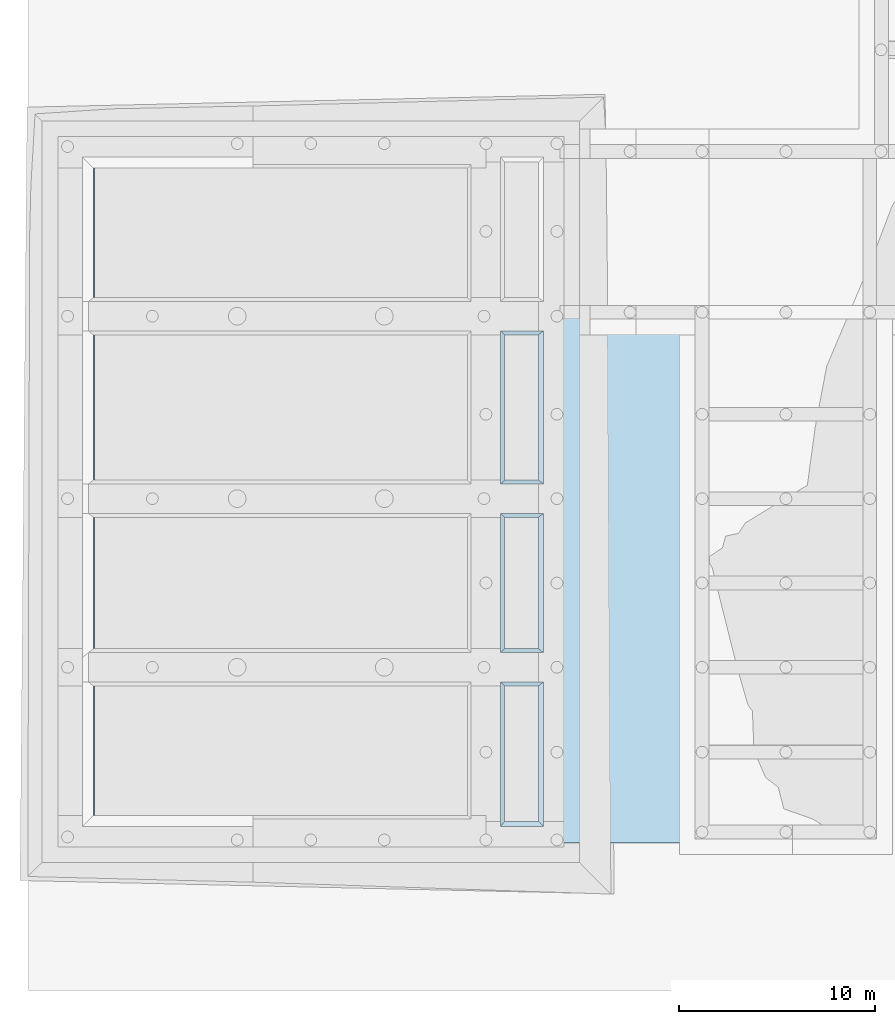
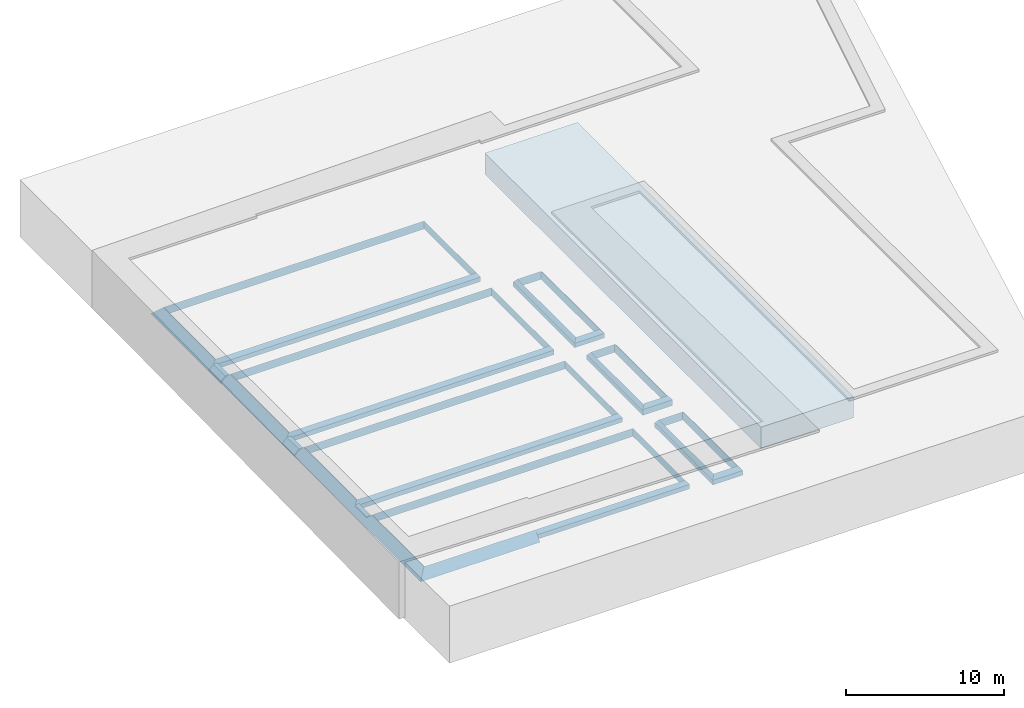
# One storey, part 5 of 7: 5 slabs.
"""IFC2X3 building model written with IfcOpenShell, lengths in millimetres."""

from ifc_helpers import new_model, entity, si_unit, converted_unit, derived_unit, money_unit, direction, frame, origin_with_axes, place, context, subcontext, project, spatial, polyline, outline, extrude, boolean, faceted_brep, material, layer, layer_set, layer_usage, type_object, element, save


model = new_model("IFC2X3")

# Units and contexts
model_context = context("Model", 3, precision=0.01, world=origin_with_axes(), true_north=direction((0.0, 1.0)))
body_context = subcontext(model_context, "Body", "Model", "MODEL_VIEW")
ifc_project = project(units=[si_unit("LENGTHUNIT", "METRE", prefix="MILLI"), si_unit("AREAUNIT", "SQUARE_METRE"), si_unit("VOLUMEUNIT", "CUBIC_METRE"), converted_unit("PLANEANGLEUNIT", "DEGREE", entity("IfcPlaneAngleMeasure", 0.0174532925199), si_unit("PLANEANGLEUNIT", "RADIAN"), dimensions=[0, 0, 0, 0, 0, 0, 0]), money_unit("USD"), converted_unit("TIMEUNIT", "Year", entity("IfcTimeMeasure", 31556926.0), si_unit("TIMEUNIT", "SECOND"), dimensions=[0, 0, 1, 0, 0, 0, 0]), si_unit("MASSUNIT", "GRAM", prefix="KILO"), si_unit("THERMODYNAMICTEMPERATUREUNIT", "DEGREE_CELSIUS"), si_unit("LUMINOUSINTENSITYUNIT", "LUMEN"), si_unit("ENERGYUNIT", "JOULE", prefix="MEGA"), derived_unit("THERMALCONDUCTANCEUNIT", [(si_unit("POWERUNIT", "WATT"), 1), (si_unit("LENGTHUNIT", "METRE"), -1), (si_unit("THERMODYNAMICTEMPERATUREUNIT", "KELVIN"), -1)]), derived_unit("SPECIFICHEATCAPACITYUNIT", [(si_unit("ENERGYUNIT", "JOULE"), 1), (si_unit("MASSUNIT", "GRAM", prefix="KILO"), -1), (si_unit("THERMODYNAMICTEMPERATUREUNIT", "KELVIN"), -1)]), derived_unit("MASSDENSITYUNIT", [(si_unit("MASSUNIT", "GRAM", prefix="KILO"), 1), (si_unit("VOLUMEUNIT", "CUBIC_METRE"), -1)])], contexts=[model_context])

# Site, building, storey
site_placement = place(None, frame((9669.71692459, 4224.13032188, 0.0), z_axis=(0.0, 0.0, 1.0), x_axis=(1.0, 0.0, 0.0)))
site = spatial("IfcSite", under=ifc_project, at=site_placement, Name="Exteriér", CompositionType="ELEMENT")
building_placement = place(site_placement, origin_with_axes())
building = spatial("IfcBuilding", under=site, at=building_placement, Name="Budova", CompositionType="ELEMENT")
storey_placement = place(building_placement, frame((0.0, 0.0, -5000.0), z_axis=(0.0, 0.0, 1.0), x_axis=(1.0, 0.0, 0.0)))
storey = spatial("IfcBuildingStorey", under=building, at=storey_placement, Name="Základy", CompositionType="ELEMENT", Elevation=-5000.0)

# Slabs
ifc_material = material(Name="Hutněný násyp")
ifc_layer_1 = layer(ifc_material, 1631.37642892, ventilated="UNKNOWN")
ifc_layer_set_1 = layer_set([ifc_layer_1], Name="Hutněný násyp 1631.38")
ifc_layer_usage_1 = layer_usage(ifc_layer_set_1, "AXIS3", "NEGATIVE", 1631.37642892)
slab_type_1 = type_object("IfcSlabType", Name="Hutněný násyp 1631", PredefinedType="FLOOR")
slab_1_placement = place(storey_placement, frame((12954.737132, -4460.94750073, 3074.62357108), z_axis=(0.0, 0.0, 1.0), x_axis=(1.0, 0.0, 0.0)))
element("IfcSlab", 1, at=slab_1_placement, inside=storey, type_object=slab_type_1, material=ifc_layer_usage_1, Name="Zásyp", PredefinedType="FLOOR", context=body_context, shape_type="CSG", body=[
    boolean("DIFFERENCE", extrude(outline(polyline([(0.0, 0.0), (6759.99999993, 0.0), (6759.99999993, 34900.0), (0.0, 34900.0), (0.0, 0.0)])), origin_with_axes(), (0.0, 0.0, 1.0), 1631.37642892), faceted_brep([(0.0, 0.0, 346.925281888), (209.085961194, 0.0, 356.690475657), (0.0, 932.994283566, 341.241322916), (0.0, 0.0, 0.0), (6759.99999993, 0.0, 0.0), (6759.99999993, 0.0, 980.352893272), (6402.27434545, 0.0, 954.390441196), (3452.62927391, 0.0, 879.982093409), (3063.47299721, 0.0, 870.434176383), (2143.414495, 0.0, 693.058159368), (466.287841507, 0.0, 373.280828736), (0.0, 7367.91030647, 327.706314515), (2446.6917581, 7438.94710883, 485.376428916), (0.0, 12944.2661792, 297.572104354), (0.0, 14365.8616987, 349.712927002), (0.0, 14632.2479457, 282.536742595), (0.0, 15421.8575599, 337.252027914), (0.0, 16170.4105545, 287.88958868), (0.0, 24125.5160663, 314.861069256), (2.17177387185e-08, 26700.0033854, 329.821147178), (2.17177387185e-08, 26700.0033854, 1415.37642892), (0.0, 26700.0156261, 1415.37642892), (0.0, 26700.0156261, 0.0), (0.0, 34900.0, 0.0), (6759.99999993, 34900.0, 0.0), (6759.99999993, 34900.0, 567.911722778), (6759.99999993, 33804.8699131, 593.975966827), (6759.99999993, 32890.9729468, 644.191369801), (6759.99999993, 31878.737024, 668.462725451), (6759.99999993, 31229.69455, 665.083907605), (6759.99999993, 27400.0153777, 758.608749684), (6759.99999993, 27400.0153777, 1415.37642892), (6759.99999993, 34900.0, 1415.37642892), (6759.99999993, 34900.0, 1631.37642892), (6759.99999993, 26700.0063247, 1631.37642892), (6759.99999991, 26700.0063247, 1415.37642892), (6759.99999992, 26700.0103214, 790.518934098), (6759.99999991, 22659.5475681, 1013.97162421), (6759.99999991, 21608.7790592, 840.573877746), (6759.99999991, 21374.6366585, 816.610442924), (6759.99999991, 20582.5949187, 759.054375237), (6759.99999991, 15262.743969, 1073.65189281), (6759.99999991, 14691.0314264, 1231.01760133), (6759.99999991, 14354.7926048, 1312.10997947), (6759.99999991, 13955.466065, 1358.83006421), (6759.99999991, 13814.6867935, 1354.17674483), (6759.99999991, 13645.8554709, 1353.98033421), (6759.99999991, 13544.9559942, 1351.03464929), (6759.99999991, 12697.4236825, 1338.94425505), (6759.99999991, 6806.77332527, 1231.58857045), (6759.99999991, 5639.11208784, 1177.64869394), (6759.99999991, 1686.39786336, 1031.51236374), (6759.99999991, 1284.29085877, 1014.53223968), (6759.99999991, 1157.58813472, 1015.05360665), (6596.08779268, 1231.61172649, 1005.37642892), (3209.68974712, 307.86485797, 885.376428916), (6358.75358239, 13351.4992042, 1325.37642892), (4260.74778253, 15621.6911925, 515.376428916), (4500.91113818, 21693.4966541, 945.376428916), (2838.90569098, 23251.2957082, 465.376428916), (2013.20433282, 26699.9979039, 440.161258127), (3666.77308027, 26700.0008373, 496.365941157), (4688.00598878, 26700.002649, 663.779543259), (0.0, 26700.0156261, 1631.37642892), (0.0, 34900.0, 1631.37642892), (0.0, 34900.0, 1415.37642892), (0.0, 27400.0033854, 1415.37642892), (-0.000948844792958, 27400.0033854, 333.888722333), (0.0, 28800.5026465, 342.026929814), (0.0, 29680.8288135, 343.519893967), (0.0, 31596.064396, 319.225687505), (0.0, 32541.3036048, 226.81331719), (0.0, 34900.0, 127.295845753), (1138.19662123, 34900.0, 207.935847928), (1423.03257248, 34900.0, 216.712299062), (2428.09557587, 34900.0, 326.993334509), (3724.11728239, 34900.0, 407.480588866), (6048.6348638, 34900.0, 504.202828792), (2495.74705923, 30555.1058203, 435.376428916), (4174.62756816, 28815.6058242, 515.376428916), (6411.87019067, 27400.0147601, 730.511654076), (4518.13982883, 27400.0114007, 614.676062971), (3834.81148665, 27400.0101884, 502.656113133), (1845.6055819, 27400.0066596, 435.043147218), (5731.33539264, 22400.5017137, 965.376428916), (4664.1837424, 6637.74220416, 1095.37642892), (1201.59503171, 30089.8418845, 415.376428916)], [[[0, 1, 2]], [[0, 3, 4, 5, 6, 7, 8, 9, 10, 1]], [[11, 2, 1, 10, 12]], [[11, 13, 14, 15, 16, 17, 18, 19, 20, 21, 22, 3, 0, 2]], [[22, 23, 24, 4, 3]], [[5, 4, 24, 25, 26, 27, 28, 29, 30, 31, 32, 33, 34, 35, 36, 37, 38, 39, 40, 41, 42, 43, 44, 45, 46, 47, 48, 49, 50, 51, 52, 53]], [[54, 6, 5, 53]], [[55, 7, 6, 54]], [[55, 8, 7]], [[9, 8, 55]], [[10, 9, 55, 12]], [[13, 11, 12]], [[14, 13, 12, 56]], [[15, 14, 56, 57]], [[16, 15, 57, 58]], [[17, 16, 58, 59]], [[18, 17, 59]], [[19, 18, 59, 60]], [[20, 19, 60, 61, 62, 36, 35]], [[21, 20, 35]], [[23, 22, 21, 63, 64, 65, 66, 67, 68, 69, 70, 71, 72]], [[72, 73, 74, 75, 76, 77, 25, 24, 23]], [[77, 26, 25]], [[77, 76, 27, 26]], [[76, 75, 78, 28, 27]], [[78, 79, 29, 28]], [[79, 80, 30, 29]], [[67, 66, 31, 30, 80, 81, 82, 83]], [[66, 65, 32, 31]], [[65, 64, 33, 32]], [[64, 63, 34, 33]], [[63, 21, 35, 34]], [[62, 84, 37, 36]], [[84, 38, 37]], [[84, 58, 39, 38]], [[58, 57, 40, 39]], [[40, 57, 41]], [[57, 42, 41]], [[57, 43, 42]], [[57, 56, 44, 43]], [[56, 45, 44]], [[46, 45, 56]], [[47, 46, 56]], [[48, 47, 56]], [[56, 85, 49, 48]], [[50, 49, 85]], [[85, 54, 51, 50]], [[52, 51, 54]], [[53, 52, 54]], [[55, 54, 85]], [[12, 55, 85]], [[12, 85, 56]], [[84, 59, 58]], [[61, 60, 59]], [[61, 59, 84, 62]], [[68, 67, 83, 86]], [[69, 68, 86]], [[70, 69, 86]], [[86, 71, 70]], [[73, 72, 71, 86]], [[73, 86, 78, 74]], [[75, 74, 78]], [[86, 79, 78]], [[80, 79, 81]], [[82, 81, 79]], [[86, 83, 82, 79]]])),
])
ifc_layer_2 = layer(ifc_material, 728.0, ventilated="UNKNOWN")
ifc_layer_set_2 = layer_set([ifc_layer_2], Name="Hutněný násyp 728")
ifc_layer_usage_2 = layer_usage(ifc_layer_set_2, "AXIS3", "NEGATIVE", 728.0)
slab_type_2 = type_object("IfcSlabType", Name="Hutněný násyp 728", PredefinedType="FLOOR")
slab_2_placement = place(storey_placement, frame((9934.73715279, 21389.0522278, 800.0), z_axis=(0.0, 0.0, 1.0), x_axis=(1.0, 0.0, 0.0)))
element("IfcSlab", 2, at=slab_2_placement, inside=storey, type_object=slab_type_2, material=ifc_layer_usage_2, Name="Zásyp", PredefinedType="FLOOR", context=body_context, shape_type="CSG", body=[
    boolean("DIFFERENCE", extrude(outline(polyline([(0.0, -7549.99952938), (2180.0001834, -7549.99952938), (2180.0001834, 249.99997518), (0.0, 249.99997518), (0.0, -7549.99952938)]), holes=[polyline([(199.999933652, -7349.9994795), (199.999933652, 49.9999252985), (1930.00032445, 49.9999252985), (1930.00032445, -7349.9994795), (199.999933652, -7349.9994795)])]), origin_with_axes(), (0.0, 0.0, 1.0), 728.0), faceted_brep([(199.999972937, 49.9999749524, 628.022147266), (1930.00026922, 49.999975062, 628.000019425), (1930.00032445, 49.9999252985, 728.0), (199.999933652, 49.9999252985, 728.0), (199.999933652, 249.999975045, 350.000000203), (2180.00026973, 249.999975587, 349.999999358), (-1.79362427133e-05, 249.99997499, 350.000000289), (1930.00026974, -7349.99952904, 627.999999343), (1930.00032445, -7349.9994795, 728.0), (2180.0001834, 249.99997518, 728.0), (199.999933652, 249.99997518, 728.0), (0.0, 249.99997518, 728.0), (0.0, 0.0, 728.0), (0.0, -6910.00027635, 728.0), (0.0, -7549.99952938, 728.0), (1930.00032445, -7549.99952938, 728.0), (2180.0001834, -7549.99952938, 728.0), (2180.0001834, -6910.00027635, 728.0), (2180.0001834, 0.0, 728.0), (199.999933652, -7349.9994795, 728.0), (199.999982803, -7349.99952915, 628.022147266), (2180.00026918, 0.0, 349.999999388), (2180.00025394, -6910.00027635, 350.000000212), (2180.00025253, -7549.99952919, 350.000000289), (-1.7918514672e-05, 0.0, 350.000000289), (-1.73831562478e-05, -7549.99952919, 350.000000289), (-1.74285386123e-05, -6910.00027635, 350.000000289), (1930.00032445, -7549.99952919, 350.000000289)], [[[0, 1, 2, 3]], [[4, 5, 1, 0, 6]], [[1, 7, 8, 2]], [[9, 10, 11, 12, 13, 14, 15, 16, 17, 18], [3, 2, 8, 19]], [[20, 0, 3, 19]], [[5, 4, 10, 9]], [[5, 21, 22, 23, 7, 1]], [[24, 6, 0, 20, 25, 26]], [[4, 6, 11, 10]], [[7, 20, 19, 8]], [[6, 24, 12, 11]], [[24, 26, 13, 12]], [[26, 25, 14, 13]], [[25, 27, 15, 14]], [[27, 23, 16, 15]], [[23, 22, 17, 16]], [[22, 21, 18, 17]], [[21, 5, 9, 18]], [[23, 27, 25, 20, 7]]])),
])
ifc_layer_usage_3 = layer_usage(ifc_layer_set_2, "AXIS3", "NEGATIVE", 728.0)
slab_3_placement = place(storey_placement, frame((-11395.263015, 3739.05230132, 800.0), z_axis=(0.0, 0.0, 1.0), x_axis=(1.0, 0.0, 0.0)))
element("IfcSlab", 3, at=slab_3_placement, inside=storey, type_object=slab_type_2, material=ifc_layer_usage_3, Name="Zásyp", PredefinedType="FLOOR", context=body_context, shape_type="CSG", body=[
    boolean("DIFFERENCE", extrude(outline(polyline([(0.0, -7359.99966325), (8714.7482725, -7359.99966325), (8714.7482725, -6994.99968979), (19830.000137, -6994.99968979), (19830.000137, 0.0), (623.0223152, 0.0), (623.0223152, 1500.00012934), (19830.000137, 1500.00012934), (19830.000137, 8600.00039705), (623.0223152, 8600.00039705), (623.0223152, 10100.000397), (19830.000137, 10100.000397), (19830.000137, 17899.9999016), (623.0223152, 17899.9999016), (623.0223152, 19399.9999016), (19830.000137, 19399.9999016), (19830.000137, 26395.0001979), (8714.74812699, 26395.0001979), (8714.74812699, 26760.0001979), (0.0, 26760.0001979), (0.0, -7359.99966325)]), holes=[polyline([(622.113006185, -6794.99973267), (622.113006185, -199.999957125), (19630.0001798, -199.999957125), (19630.0001798, -6794.99973267), (622.113006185, -6794.99973267)]), polyline([(623.0223152, 17699.9999016), (19630.000137, 17699.9999016), (19630.000137, 10300.000397), (623.0223152, 10300.000397), (623.0223152, 17699.9999016)]), polyline([(623.0223152, 8400.00039705), (19630.000137, 8400.00039705), (19630.000137, 1700.00008101), (623.0223152, 1700.00008101), (623.0223152, 8400.00039705)]), polyline([(623.0223152, 26195.0001979), (19630.000137, 26195.0001979), (19630.000137, 19599.9999016), (623.0223152, 19599.9999016), (623.0223152, 26195.0001979)])]), origin_with_axes(), (0.0, 0.0, 1.0), 728.0), faceted_brep([(723.0223152, -199.999891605, 628.000000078), (723.0223152, -199.99987089, 628.339806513), (19630.0001367, -199.999870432, 628.339806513), (19630.0001798, -199.999957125, 728.0), (622.113006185, -199.999957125, 728.0), (622.113006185, -199.999891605, 628.000000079), (622.113006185, -199.999957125, 450.0), (723.0223152, -199.999957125, 450.0), (723.0223152, -71.0425131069, 450.0), (19630.0001798, 0.000129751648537, 351.752553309), (19830.0001368, 0.000129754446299, 351.752553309), (622.113006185, -71.0425131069, 450.0), (622.113006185, -199.99987089, 628.339806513), (565.000000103, -199.99987089, 628.339806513), (314.888538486, 0.000129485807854, 351.752553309), (623.0223152, 0.000129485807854, 351.752553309), (19630.000137, -6794.99966325, 628.0), (19630.0001367, -6794.99966347, 628.339806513), (19630.0001798, -6794.99973267, 728.0), (19630.000137, -199.999870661, 628.0), (623.0223152, 26760.0001979, 728.0), (0.0, 26760.0001979, 728.0), (0.0, 26195.0001979, 728.0), (0.0, 0.0, 728.0), (0.0, -7359.99966325, 728.0), (564.999930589, -7359.99966325, 728.0), (8714.7482725, -7359.99966325, 728.0), (8714.7482725, -6994.99968979, 728.0), (19630.0001798, -6994.99968979, 728.0), (19830.000137, -6994.99968979, 728.0), (19830.000137, -6794.99973267, 728.0), (19830.000137, -199.999957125, 728.0), (19830.000137, 0.0, 728.0), (19630.0001798, 0.0, 728.0), (623.0223152, 0.0, 728.0), (623.0223152, 1500.00012934, 728.0), (19630.000137, 1500.00012934, 728.0), (19830.000137, 1500.00012934, 728.0), (19830.000137, 1700.00008101, 728.0), (19830.000137, 8600.00039705, 728.0), (19630.000137, 8600.00039705, 728.0), (623.0223152, 8600.00039705, 728.0), (623.0223152, 10100.000397, 728.0), (19830.000137, 10100.000397, 728.0), (19830.000137, 10300.000397, 728.0), (19830.000137, 17699.9999016, 728.0), (19830.000137, 17899.9999016, 728.0), (19630.000137, 17899.9999016, 728.0), (623.0223152, 17899.9999016, 728.0), (623.0223152, 19399.9999016, 728.0), (19830.000137, 19399.9999016, 728.0), (19830.000137, 19599.9999016, 728.0), (19830.000137, 26195.0001979, 728.0), (19830.000137, 26395.0001979, 728.0), (19630.000137, 26395.0001979, 728.0), (8714.74812699, 26395.0001979, 728.0), (8714.74812699, 26760.0001979, 728.0), (8714.7482725, -6794.99973267, 728.0), (622.113006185, -6794.99973267, 728.0), (19630.000137, 17699.9999016, 728.0), (19630.000137, 10300.000397, 728.0), (623.0223152, 10300.000397, 728.0), (623.0223152, 17699.9999016, 728.0), (19630.000137, 8400.00039705, 728.0), (19630.000137, 1700.00008101, 728.0), (623.0223152, 1700.00008101, 728.0), (623.0223152, 8400.00039705, 728.0), (19630.000137, 26195.0001979, 728.0), (19630.000137, 19599.9999016, 728.0), (623.0223152, 19599.9999016, 728.0), (623.0223152, 26195.0001979, 728.0), (8714.74812699, 26195.0001979, 728.0), (622.113006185, -6794.99966299, 628.000000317), (19830.0001368, 0.000129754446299, 350.000000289), (565.000032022, -199.9998983, 628.000035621), (314.888487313, 0.000129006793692, 349.999946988), (623.0223152, 0.000129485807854, 450.0), (314.888538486, 0.000129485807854, 450.0), (622.113006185, 0.000129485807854, 450.0), (19830.0001368, -6994.99966366, 350.000000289), (19830.0001368, -6994.99966366, 351.752553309), (8714.74812683, -6794.99966303, 628.339806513), (19830.0001368, -199.999957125, 350.000000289), (19830.0001368, -6794.99973267, 350.000000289), (623.0223152, 26760.0001982, -3.11199066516e-07), (-3.80040887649e-07, 26760.0001982, -3.11199066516e-07), (-3.74278386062e-07, 26195.0001979, -3.11197290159e-07), (-3.03085556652e-07, 8600.00039699, -3.09084313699e-07), (-1.38234312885e-07, 0.0, -3.10222958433e-07), (-3.04968494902e-07, 19399.9999012, -3.11177750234e-07), (-3.04968494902e-07, 19399.9999012, 100.000000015), (-3.04968494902e-07, 17899.9999019, 100.000000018), (-3.04968494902e-07, 17899.9999019, -3.11175973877e-07), (-3.04968494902e-07, 10100.0003967, -3.11175973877e-07), (-3.04968494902e-07, 10100.0003967, 100.000000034), (-1.58870250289e-07, 8600.00039699, 100.000000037), (2.8492763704e-09, -7359.99966356, -3.11197290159e-07), (564.999930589, -7359.99966356, -3.11197290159e-07), (8714.74812738, -7359.99966356, -3.11197290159e-07), (8714.74812683, -6994.9996634, 405.699112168), (8714.74812683, -6994.9996634, 351.752553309), (19630.0001798, -6994.99966365, 351.752553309), (623.0223152, 1500.00012953, 450.0), (623.0223152, 1500.00012953, 350.000000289), (19630.000137, 1500.00012956, 350.000000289), (19830.0001368, 1500.00012956, 350.000000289), (19830.0001368, 1700.00008101, 350.000000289), (19830.0001368, 8600.00039746, 350.000000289), (19830.0001365, 8600.0003972, 351.752553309), (19630.000137, 8600.0003972, 351.752553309), (623.0223152, 8600.0003972, 351.752553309), (623.0223152, 8600.0003972, 450.0), (623.0223152, 10100.0003972, 450.0), (623.0223152, 10100.0003972, 350.000000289), (19830.0001368, 10100.0003967, 350.000000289), (19830.0001368, 10300.000397, 350.000000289), (19830.0001368, 17699.9999016, 350.000000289), (19830.0001368, 17899.999902, 350.000000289), (19830.0001365, 17899.9999018, 351.752553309), (19630.000137, 17899.9999018, 351.752553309), (623.0223152, 17899.9999018, 351.752553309), (623.0223152, 17899.9999018, 450.0), (623.0223152, 19399.9999018, 450.0), (623.0223152, 19399.9999018, 350.000000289), (19830.0001368, 19399.9999022, 350.000000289), (19830.0001368, 19599.9999016, 350.000000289), (19830.0001368, 26195.0001979, 350.000000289), (19830.0001368, 26395.0001984, 350.000000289), (19830.0001371, 26395.0001981, 351.752553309), (19630.000137, 26395.0001981, 351.752553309), (8714.7481266, 26395.0001981, 351.752553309), (8714.748127, 26395.000198, 405.699115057), (8714.748127, 26760.0001982, -3.11201731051e-07), (8714.74812738, -6794.99966299, 628.000000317), (19630.000137, 17699.9999016, 628.0), (19630.000137, 10300.000397, 628.0), (19630.000137, 17699.9999016, 628.339806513), (623.0223152, 10300.000397, 628.0), (623.0223152, 17699.9999016, 628.0), (623.0223152, 17699.9999016, 628.339806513), (19630.000137, 8400.00039705, 628.0), (19630.000137, 1700.00012934, 628.0), (19630.0001372, 8400.00039682, 628.339806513), (623.0223152, 1700.00008106, 627.999946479), (623.0223152, 8400.00039585, 627.999946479), (623.0223152, 8400.00039682, 628.339806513), (19630.000137, 26195.0001979, 628.0), (19630.000137, 19599.9999016, 628.0), (19630.000137, 26195.0001979, 628.339806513), (623.0223152, 19599.9999016, 628.0), (623.0223152, 26195.0001979, 628.0), (8714.748127, 26195.0001979, 628.0), (8714.748127, 26195.0001979, 628.339806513), (565.000000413, -6794.99966299, 628.000000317), (314.888509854, 8600.00039699, 349.999972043), (564.999951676, 8400.00039585, 627.999946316), (564.999951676, 1700.00008091, 627.999946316), (314.998177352, 1500.08779567, 350.121867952), (314.88853914, 1500.00012904, 350.000004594), (314.888539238, 1500.00012953, 450.0), (8714.74812683, -6796.25156565, 626.608504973), (8714.748127, 26196.2521003, 626.608504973), (565.0, 26195.0001979, 628.0), (565.0, 19599.9999016, 628.0), (314.888539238, 19399.9999018, 350.000000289), (314.888539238, 19399.9999018, 450.0), (314.888538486, 17899.9999018, 450.0), (314.888538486, 17899.9999018, 351.752553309), (314.888539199, 17899.9999019, 350.00000466), (565.0, 17699.9999016, 628.0), (565.0, 10300.000397, 628.0), (314.888539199, 10100.0003967, 350.00000466), (314.888539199, 10100.0003967, 450.0), (314.888538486, 8600.0003972, 450.0), (314.888538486, 8600.0003972, 351.752553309), (565.000000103, 8400.00039682, 628.339806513), (565.0, 17699.9999016, 628.339806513)], [[[0, 1, 2, 3, 4, 5, 6, 7]], [[1, 0, 7, 8]], [[9, 10, 2, 1, 8, 11, 12, 13, 14, 15]], [[16, 17, 18, 3, 2, 19]], [[20, 21, 22, 23, 24, 25, 26, 27, 28, 29, 30, 31, 32, 33, 34, 35, 36, 37, 38, 39, 40, 41, 42, 43, 44, 45, 46, 47, 48, 49, 50, 51, 52, 53, 54, 55, 56], [4, 3, 18, 57, 58], [59, 60, 61, 62], [63, 64, 65, 66], [67, 68, 69, 70, 71]], [[72, 5, 4, 58]], [[6, 5, 12, 11]], [[7, 6, 11, 8]], [[10, 9, 33, 32]], [[10, 73, 19, 2]], [[13, 12, 5, 74]], [[14, 13, 74, 75]], [[76, 15, 14, 77, 78]], [[15, 76, 34, 33, 9]], [[79, 80, 17, 16]], [[17, 81, 57, 18]], [[73, 82, 83, 79, 16, 19]], [[84, 85, 21, 20]], [[85, 86, 22, 21]], [[87, 88, 23, 22, 86, 89, 90, 91, 92, 93, 94, 95]], [[88, 96, 24, 23]], [[96, 97, 25, 24]], [[97, 98, 26, 25]], [[98, 99, 27, 26]], [[100, 101, 28, 27, 99]], [[101, 80, 29, 28]], [[79, 83, 30, 29, 80]], [[83, 82, 31, 30]], [[73, 10, 32, 31, 82]], [[76, 102, 35, 34]], [[103, 104, 36, 35, 102]], [[104, 105, 37, 36]], [[105, 106, 38, 37]], [[107, 108, 39, 38, 106]], [[108, 109, 40, 39]], [[110, 111, 41, 40, 109]], [[111, 112, 42, 41]], [[113, 114, 43, 42, 112]], [[114, 115, 44, 43]], [[115, 116, 45, 44]], [[117, 118, 46, 45, 116]], [[118, 119, 47, 46]], [[120, 121, 48, 47, 119]], [[121, 122, 49, 48]], [[123, 124, 50, 49, 122]], [[124, 125, 51, 50]], [[125, 126, 52, 51]], [[126, 127, 128, 53, 52]], [[128, 129, 54, 53]], [[130, 131, 55, 54, 129]], [[131, 132, 56, 55]], [[132, 84, 20, 56]], [[133, 72, 58, 57, 81]], [[134, 135, 60, 59, 136]], [[135, 137, 61, 60]], [[138, 139, 62, 61, 137]], [[139, 136, 59, 62]], [[140, 141, 64, 63, 142]], [[141, 143, 65, 64]], [[144, 145, 66, 65, 143]], [[145, 142, 63, 66]], [[146, 147, 68, 67, 148]], [[147, 149, 69, 68]], [[149, 150, 70, 69]], [[151, 152, 71, 70, 150]], [[152, 148, 67, 71]], [[5, 72, 153, 74]], [[88, 87, 154, 155, 156, 157, 158, 75, 74, 153, 96]], [[14, 75, 158, 159, 77]], [[102, 76, 78, 77, 159]], [[80, 101, 100, 160, 81, 17]], [[84, 132, 131, 161, 151, 150, 162, 85]], [[86, 85, 162, 163, 164, 89]], [[123, 122, 165, 90, 89, 164]], [[91, 90, 165, 166]], [[121, 120, 167, 168, 92, 91, 166]], [[93, 92, 168, 169, 170, 171]], [[113, 112, 172, 94, 93, 171]], [[95, 94, 172, 173]], [[111, 110, 174, 154, 87, 95, 173]], [[99, 98, 97, 96, 153, 72, 133, 160]], [[100, 99, 160]], [[105, 104, 103, 158, 157, 156, 143, 141]], [[103, 102, 159, 158]], [[107, 106, 105, 141, 140]], [[108, 107, 140, 142]], [[109, 108, 142, 145, 175, 174, 110]], [[112, 111, 173, 172]], [[114, 113, 171, 170, 137, 135]], [[117, 116, 115, 114, 135, 134]], [[118, 117, 134, 136]], [[119, 118, 136, 139, 176, 167, 120]], [[122, 121, 166, 165]], [[124, 123, 164, 163, 149, 147]], [[127, 126, 125, 124, 147, 146]], [[128, 127, 146, 148]], [[129, 128, 148, 152, 161, 130]], [[131, 130, 161]], [[133, 81, 160]], [[139, 138, 169, 176]], [[138, 137, 170, 169]], [[145, 144, 155, 175]], [[144, 143, 156, 155]], [[150, 149, 163, 162]], [[152, 151, 161]], [[155, 154, 174, 175]], [[168, 167, 176, 169]]])),
])
ifc_layer_usage_4 = layer_usage(ifc_layer_set_2, "AXIS3", "NEGATIVE", 728.0)
slab_4_placement = place(storey_placement, frame((9934.73715279, 5239.05243066, 800.0), z_axis=(0.0, 0.0, 1.0), x_axis=(1.0, 0.0, 0.0)))
element("IfcSlab", 4, at=slab_4_placement, inside=storey, type_object=slab_type_2, material=ifc_layer_usage_4, Name="Zásyp", PredefinedType="FLOOR", context=body_context, shape_type="CSG", body=[
    boolean("DIFFERENCE", extrude(outline(polyline([(0.0, 0.0), (2180.00014947, 0.0), (2180.00014947, 7100.00037327), (0.0, 7100.00037327), (0.0, 0.0)]), holes=[polyline([(1930.00035579, 200.000037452), (199.999924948, 200.000037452), (199.999924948, 6900.00022332), (1930.00035579, 6900.00022332), (1930.00035579, 200.000037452)])]), origin_with_axes(), (0.0, 0.0, 1.0), 728.0), faceted_brep([(199.999973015, 6900.00026763, 628.022157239), (1930.00026961, 6900.00026748, 628.022147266), (1930.00026922, 6900.00026764, 640.667370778), (1930.00035579, 6900.00022332, 728.0), (199.999924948, 6900.00022332, 728.0), (199.999924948, 7100.00026734, 349.999999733), (2180.00025191, 7100.00026752, 350.000000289), (-3.51280444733e-05, 7100.00026732, 349.999999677), (2180.00026947, 7100.00026814, 362.6673705), (1930.00026958, 200.000000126, 640.667352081), (1930.00026958, 200.000000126, 728.000005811), (0.0, 639.999287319, 728.0), (0.0, 0.0, 728.0), (1930.00035579, 0.0, 728.0), (2180.00014947, 0.0, 728.0), (2180.00014947, 639.999287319, 728.0), (2180.00014947, 7100.00037327, 728.0), (199.999924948, 7100.00037327, 728.0), (0.0, 7100.00037327, 728.0), (199.999982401, 200.000000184, 728.000004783), (199.999982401, 200.000000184, 628.02214741), (-1.9260989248e-05, 639.999287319, 349.999999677), (-1.76890235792e-05, -4.933848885e-07, 349.999999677), (2180.0002536, 639.999287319, 362.6673705), (2180.00025203, 2.56754617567e-07, 362.6673705), (2180.00025203, 2.56754617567e-07, 450.0), (-1.76890235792e-05, -4.933848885e-07, 450.0), (1930.00035579, 1.70729208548e-07, 450.0)], [[[0, 1, 2, 3, 4]], [[5, 6, 1, 0, 7]], [[6, 8, 2, 1]], [[9, 10, 3, 2]], [[11, 12, 13, 14, 15, 16, 17, 18], [10, 19, 4, 3]], [[20, 0, 4, 19]], [[6, 5, 17, 16, 8]], [[21, 7, 0, 20, 22]], [[5, 7, 18, 17]], [[8, 23, 24, 9, 2]], [[24, 25, 10, 9]], [[22, 26, 12, 11, 21]], [[26, 27, 13, 12]], [[27, 25, 14, 13]], [[24, 23, 15, 14, 25]], [[23, 8, 16, 15]], [[7, 21, 11, 18]], [[25, 27, 26, 19, 10]], [[20, 19, 26, 22]]])),
])
ifc_layer_usage_5 = layer_usage(ifc_layer_set_2, "AXIS3", "NEGATIVE", 728.0)
slab_5_placement = place(storey_placement, frame((9934.73715279, -3620.94786567, 800.0), z_axis=(0.0, 0.0, 1.0), x_axis=(1.0, 0.0, 0.0)))
element("IfcSlab", 5, at=slab_5_placement, inside=storey, type_object=slab_type_2, material=ifc_layer_usage_5, Name="Zásyp", PredefinedType="FLOOR", context=body_context, shape_type="CSG", body=[
    boolean("DIFFERENCE", extrude(outline(polyline([(0.0, 0.0), (2180.00011161, 0.0), (2180.00011161, 7360.00029633), (0.0, 7360.00029633), (0.0, 0.0)]), holes=[polyline([(1930.00030659, 250.00050374), (199.999931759, 250.00050374), (199.999931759, 7160.00029633), (1930.00030659, 7160.00029633), (1930.00030659, 250.00050374)])]), origin_with_axes(), (0.0, 0.0, 1.0), 728.0), faceted_brep([(199.999973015, 7160.00029626, 628.022157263), (1930.00026961, 7160.00029611, 628.022147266), (1930.00026922, 7160.00029624, 640.667370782), (1930.00030659, 7160.00029633, 728.0), (199.999931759, 7160.00029633, 728.0), (199.999931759, 7360.00029599, 349.999999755), (2180.00025191, 7360.00029614, 350.000000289), (-3.51106557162e-05, 7360.00029597, 349.999999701), (2180.00026946, 7360.00029677, 362.667370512), (1930.00026925, 250.000504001, 640.667468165), (1930.00030659, 250.00050374, 728.0), (0.0, 639.999277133, 728.0), (0.0, 0.0, 728.0), (1930.00030659, 0.0, 728.0), (2180.00011161, 0.0, 728.0), (2180.00011161, 639.999277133, 728.0), (2180.00011161, 7360.00029633, 728.0), (199.999931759, 7360.00029633, 728.0), (0.0, 7360.00029633, 728.0), (199.999931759, 250.00050374, 728.0), (199.999969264, 250.000503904, 628.02212929), (199.999968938, 250.000504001, 640.667468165), (-1.91880946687e-05, 639.999277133, 349.999999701), (-1.76716632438e-05, -4.15642631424e-07, 349.999999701), (2180.00025396, 639.999277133, 362.667459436), (2180.00025248, 2.73239209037e-08, 362.667467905), (-1.72787100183e-05, 2.73523426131e-08, 362.667467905), (1930.00030659, 2.73270295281e-08, 362.667467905)], [[[0, 1, 2, 3, 4]], [[5, 6, 1, 0, 7]], [[6, 8, 2, 1]], [[2, 9, 10, 3]], [[11, 12, 13, 14, 15, 16, 17, 18], [3, 10, 19, 4]], [[20, 0, 4, 19, 21]], [[6, 5, 17, 16, 8]], [[22, 7, 0, 20, 23]], [[5, 7, 18, 17]], [[8, 24, 25, 9, 2]], [[9, 21, 19, 10]], [[23, 26, 12, 11, 22]], [[26, 27, 13, 12]], [[27, 25, 14, 13]], [[25, 24, 15, 14]], [[24, 8, 16, 15]], [[7, 22, 11, 18]], [[20, 21, 26, 23]], [[25, 27, 26, 21, 9]]])),
])

save(model, "model.ifc")
